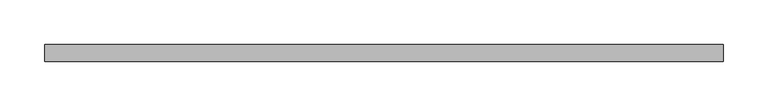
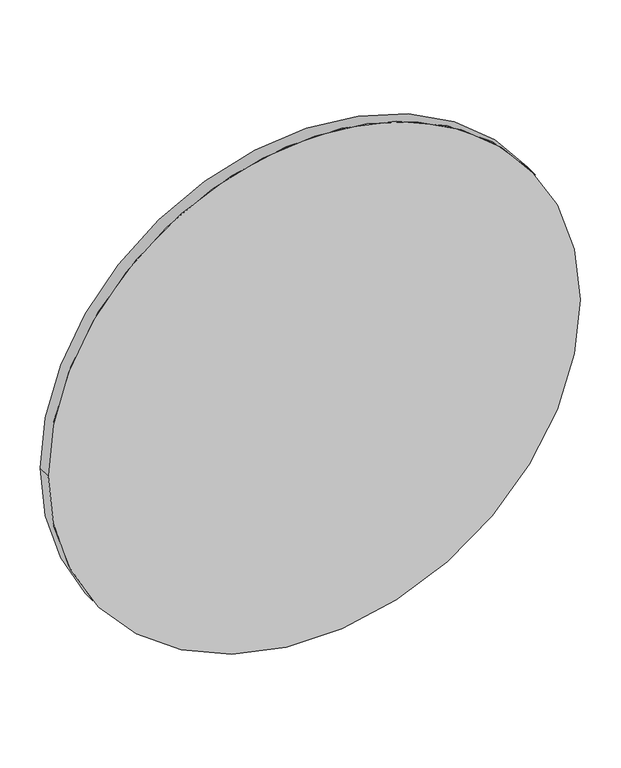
"""IFC4 building model written with IfcOpenShell, lengths in millimetres: proxy geometry, GRADIENT^TABLE 1_OCTAGON LEGS-SUB TOP."""

from ifc_helpers import new_model, si_unit, point, frame, frame_2d, origin, place, context, project, spatial, circle_curve, trimmed, segment, composite_curve, outline, extrude, source, transform, mapped, element, save


def generic_models_8032d86a(model_context):
    return source(origin(), model_context, "Body", "SweptSolid", [
        extrude(outline(composite_curve([segment(trimmed(circle_curve(frame_2d((0.0, 38.1)), 381.0), [point((0.0, -342.9))], [point((0.0, 419.1))], False, "CARTESIAN"), True, "CONTINUOUS"), segment(trimmed(circle_curve(frame_2d((0.0, 38.1)), 381.0), [point((0.0, 419.1))], [point((0.0, -342.9))], False, "CARTESIAN"), True, "CONTINUOUS")], self_intersect=False)), frame((0.0, 692.15, 0.0), z_axis=(0.0, 1.0, 0.0), x_axis=(0.0, 0.0, 1.0)), (0.0, 0.0, 1.0), 19.05),
    ])


if __name__ == "__main__":
    model = new_model("IFC4")
    model_context = context("Model", 3, world=origin())
    ifc_project = project(units=[si_unit("LENGTHUNIT", "METRE", prefix="MILLI")], contexts=[model_context])
    site = spatial("IfcSite", under=ifc_project)
    building = spatial("IfcBuilding", under=site)
    placement = place(None, origin())
    generic_models_shape = generic_models_8032d86a(model_context)
    element("IfcBuildingElementProxy", 1, Name="GRADIENT^TABLE 1_OCTAGON LEGS-SUB TOP", ObjectType="GRADIENT^TABLE 1_OCTAGON LEGS-SUB TOP", at=placement, inside=building, context=model_context, shape_type="MappedRepresentation", body=[
        mapped(generic_models_shape, transform((0.0, 0.0, 0.0), x_axis=(1.0, 0.0, 0.0), y_axis=(0.0, 1.0, 0.0), z_axis=(0.0, 0.0, 1.0))),
    ])
    save(model, "model.ifc")
